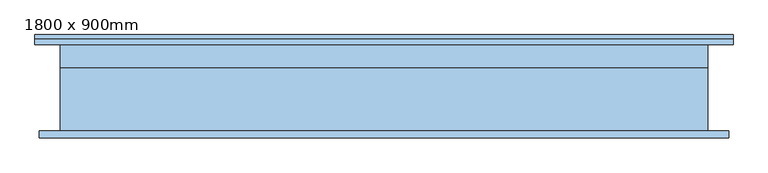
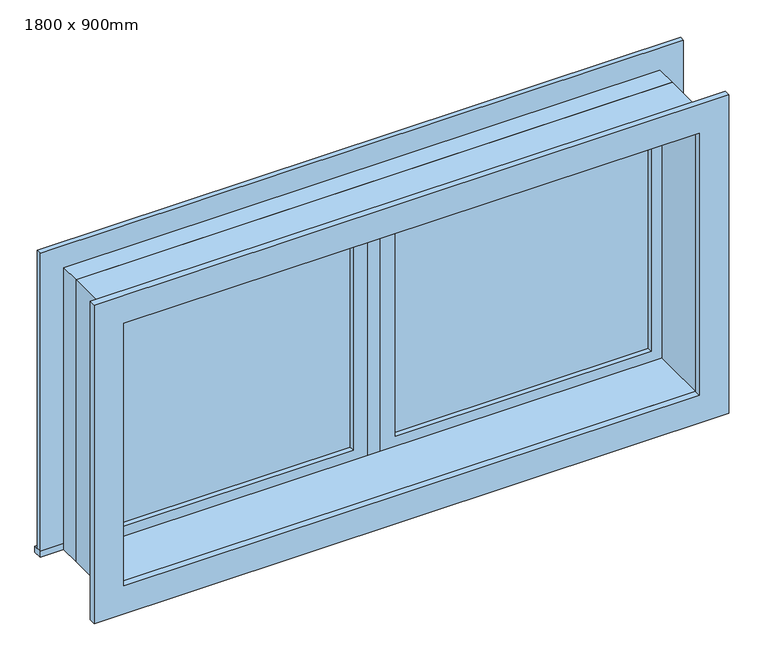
"""IFC4 building model written with IfcOpenShell, lengths in millimetres: window geometry, 双扇平开 - 带贴面 : 1800 x 900mm."""

from ifc_helpers import new_model, si_unit, frame, origin, place, context, project, spatial, polyline, outline, extrude, source, transform, mapped, element, save


def window_1800_x_900mm_8c5bb69c(model_context):
    return source(origin(), model_context, "Body", "SweptSolid", [
        extrude(outline(polyline([(63.5, 84.125), (836.5, 84.125), (836.5, 71.425), (63.5, 71.425), (63.5, 84.125)])), frame((0.0, 0.0, 964.5), z_axis=(0.0, 0.0, 1.0), x_axis=(1.0, 0.0, 0.0)), (0.0, 0.0, 1.0), 773.0),
        extrude(outline(polyline([(1781.95, 19.05), (920.05, 19.05), (920.05, 880.95), (1781.95, 880.95), (1781.95, 19.05)]), holes=[polyline([(1737.5, 63.5), (1737.5, 836.5), (964.5, 836.5), (964.5, 63.5), (1737.5, 63.5)])]), frame((0.0, 55.55, 0.0), z_axis=(0.0, 1.0, 0.0), x_axis=(0.0, 0.0, 1.0)), (0.0, 0.0, 1.0), 44.45),
        extrude(outline(polyline([(19.05, 55.55), (-19.05, 55.55), (-19.05, 119.05), (19.05, 119.05), (19.05, 55.55)])), frame((0.0, 0.0, 920.05), z_axis=(0.0, 0.0, 1.0), x_axis=(1.0, 0.0, 0.0)), (0.0, 0.0, 1.0), 861.9),
        extrude(outline(polyline([(-63.5, 71.425), (-836.5, 71.425), (-836.5, 84.125), (-63.5, 84.125), (-63.5, 71.425)])), frame((0.0, 0.0, 964.5), z_axis=(0.0, 0.0, 1.0), x_axis=(1.0, 0.0, 0.0)), (0.0, 0.0, 1.0), 773.0),
        extrude(outline(polyline([(1781.95, -880.95), (920.05, -880.95), (920.05, -19.05), (1781.95, -19.05), (1781.95, -880.95)]), holes=[polyline([(1737.5, -836.5), (1737.5, -63.5), (964.5, -63.5), (964.5, -836.5), (1737.5, -836.5)])]), frame((0.0, 55.55, 0.0), z_axis=(0.0, 1.0, 0.0), x_axis=(0.0, 0.0, 1.0)), (0.0, 0.0, 1.0), 44.45),
        extrude(outline(polyline([(1801.0, -900.0), (901.0, -900.0), (901.0, 900.0), (1801.0, 900.0), (1801.0, -900.0)]), holes=[polyline([(1769.25, -868.25), (1769.25, 868.25), (932.75, 868.25), (932.75, -868.25), (1769.25, -868.25)])]), frame((0.0, -120.0, 0.0), z_axis=(0.0, 1.0, 0.0), x_axis=(0.0, 0.0, 1.0)), (0.0, 0.0, 1.0), 175.55),
        extrude(outline(polyline([(1801.0, 900.0), (1801.0, -900.0), (901.0, -900.0), (901.0, 900.0), (1801.0, 900.0)]), holes=[polyline([(1781.95, 880.95), (920.05, 880.95), (920.05, -880.95), (1781.95, -880.95), (1781.95, 880.95)])]), frame((0.0, 55.55, 0.0), z_axis=(0.0, 1.0, 0.0), x_axis=(0.0, 0.0, 1.0)), (0.0, 0.0, 1.0), 64.45),
        extrude(outline(polyline([(-970.95, 147.7), (970.95, 147.7), (970.95, 120.0), (-970.95, 120.0), (-970.95, 147.7)])), frame((0.0, 0.0, 901.0), z_axis=(0.0, 0.0, 1.0), x_axis=(1.0, 0.0, 0.0)), (0.0, 0.0, 1.0), 19.05),
        extrude(outline(polyline([(1781.95, -880.95), (1781.95, 880.95), (920.05, 880.95), (920.05, 970.95), (1871.95, 970.95), (1871.95, -970.95), (920.05, -970.95), (920.05, -880.95), (1781.95, -880.95)])), frame((0.0, 120.0, 0.0), z_axis=(0.0, 1.0, 0.0), x_axis=(0.0, 0.0, 1.0)), (0.0, 0.0, 1.0), 15.0),
        extrude(outline(polyline([(1859.25, 958.25), (1859.25, -958.25), (842.75, -958.25), (842.75, 958.25), (1859.25, 958.25)]), holes=[polyline([(1769.25, 868.25), (932.75, 868.25), (932.75, -868.25), (1769.25, -868.25), (1769.25, 868.25)])]), frame((0.0, -140.0, 0.0), z_axis=(0.0, 1.0, 0.0), x_axis=(0.0, 0.0, 1.0)), (0.0, 0.0, 1.0), 20.0),
    ])


if __name__ == "__main__":
    model = new_model("IFC4")
    model_context = context("Model", 3, world=origin())
    ifc_project = project(units=[si_unit("LENGTHUNIT", "METRE", prefix="MILLI")], contexts=[model_context])
    site = spatial("IfcSite", under=ifc_project)
    building = spatial("IfcBuilding", under=site)
    placement = place(None, origin())
    window_1800_x_900mm_shape = window_1800_x_900mm_8c5bb69c(model_context)
    element("IfcWindow", 1, ObjectType="双扇平开 - 带贴面 : 1800 x 900mm", at=placement, inside=building, context=model_context, shape_type="MappedRepresentation", body=[
        mapped(window_1800_x_900mm_shape, transform((0.0, 0.0, 0.0), x_axis=(1.0, 0.0, 0.0), y_axis=(0.0, 1.0, 0.0), z_axis=(0.0, 0.0, 1.0))),
    ])
    save(model, "model.ifc")
